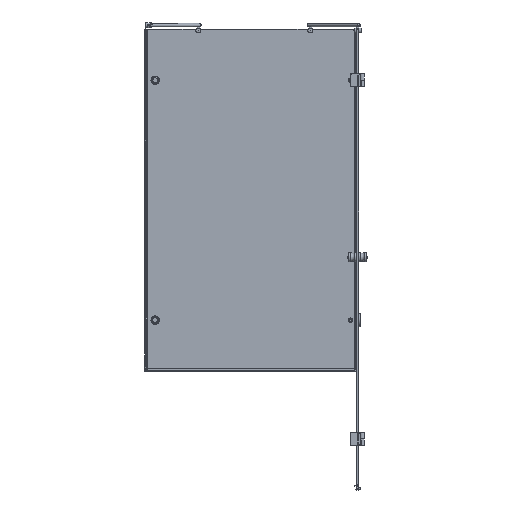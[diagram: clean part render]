
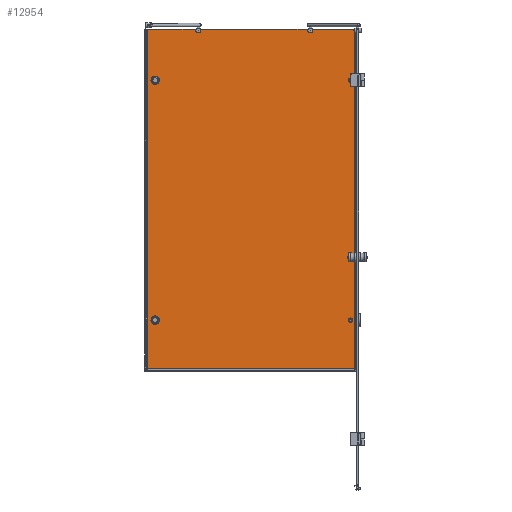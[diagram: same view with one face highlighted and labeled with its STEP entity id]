
A CAD part, left-side view. The second image highlights one B-rep face of the part: STEP entity #12954.
In plain terms, the highlighted planar face has unit normal (-1, 0, 0).
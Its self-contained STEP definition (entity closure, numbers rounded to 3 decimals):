
#153=LINE($,#18955,#1439);
#175=LINE($,#19277,#1461);
#176=LINE($,#19279,#1462);
#177=LINE($,#19281,#1463);
#178=LINE($,#19283,#1464);
#179=LINE($,#19285,#1465);
#180=LINE($,#19287,#1466);
#181=LINE($,#19289,#1467);
#182=LINE($,#19291,#1468);
#183=LINE($,#19293,#1469);
#184=LINE($,#19295,#1470);
#185=LINE($,#19297,#1471);
#186=LINE($,#19299,#1472);
#187=LINE($,#19301,#1473);
#188=LINE($,#19303,#1474);
#189=LINE($,#19304,#1475);
#1439=VECTOR($,#15026,444.574);
#1461=VECTOR($,#15108,198.474);
#1462=VECTOR($,#15109,1408.25);
#1463=VECTOR($,#15110,853.);
#1464=VECTOR($,#15111,0.5);
#1465=VECTOR($,#15112,853.);
#1466=VECTOR($,#15113,1.25);
#1467=VECTOR($,#15114,853.);
#1468=VECTOR($,#15115,5.);
#1469=VECTOR($,#15116,10.);
#1470=VECTOR($,#15117,1400.);
#1471=VECTOR($,#15118,2.443);
#1472=VECTOR($,#15119,1400.);
#1473=VECTOR($,#15120,2.257);
#1474=VECTOR($,#15121,1400.);
#1475=VECTOR($,#15122,174.531);
#2782=FACE_BOUND($,#3872,.T.);
#2783=FACE_BOUND($,#3873,.T.);
#2784=FACE_BOUND($,#3874,.T.);
#2785=FACE_BOUND($,#3875,.T.);
#3135=FACE_OUTER_BOUND($,#3871,.T.);
#3871=EDGE_LOOP($,(#8320,#8321,#8322,#8323,#8324,#8325,#8326,#8327,#8328,
#8329,#8330,#8331,#8332,#8333,#8334,#8335,#8336,#8337));
#3872=EDGE_LOOP($,(#8338));
#3873=EDGE_LOOP($,(#8339));
#3874=EDGE_LOOP($,(#8340));
#3875=EDGE_LOOP($,(#8341));
#4622=CIRCLE($,#13678,10.);
#4643=CIRCLE($,#13715,10.);
#4654=CIRCLE($,#13737,15.);
#4655=CIRCLE($,#13738,15.);
#4656=CIRCLE($,#13739,4.);
#4657=CIRCLE($,#13740,4.);
#5065=VERTEX_POINT($,#18693);
#5066=VERTEX_POINT($,#18694);
#5111=VERTEX_POINT($,#18954);
#5128=VERTEX_POINT($,#19063);
#5157=VERTEX_POINT($,#19276);
#5158=VERTEX_POINT($,#19278);
#5159=VERTEX_POINT($,#19280);
#5160=VERTEX_POINT($,#19282);
#5161=VERTEX_POINT($,#19284);
#5162=VERTEX_POINT($,#19286);
#5163=VERTEX_POINT($,#19288);
#5164=VERTEX_POINT($,#19290);
#5165=VERTEX_POINT($,#19292);
#5166=VERTEX_POINT($,#19294);
#5167=VERTEX_POINT($,#19296);
#5168=VERTEX_POINT($,#19298);
#5169=VERTEX_POINT($,#19300);
#5170=VERTEX_POINT($,#19302);
#5171=VERTEX_POINT($,#19305);
#5172=VERTEX_POINT($,#19307);
#5173=VERTEX_POINT($,#19309);
#5174=VERTEX_POINT($,#19311);
#6284=EDGE_CURVE($,#5065,#5066,#4622,.T.);
#6337=EDGE_CURVE($,#5111,#5065,#153,.T.);
#6355=EDGE_CURVE($,#5128,#5111,#4643,.T.);
#6388=EDGE_CURVE($,#5066,#5157,#175,.T.);
#6389=EDGE_CURVE($,#5157,#5158,#176,.T.);
#6390=EDGE_CURVE($,#5158,#5159,#177,.T.);
#6391=EDGE_CURVE($,#5159,#5160,#178,.T.);
#6392=EDGE_CURVE($,#5161,#5160,#179,.T.);
#6393=EDGE_CURVE($,#5161,#5162,#180,.T.);
#6394=EDGE_CURVE($,#5163,#5162,#181,.T.);
#6395=EDGE_CURVE($,#5164,#5163,#182,.T.);
#6396=EDGE_CURVE($,#5165,#5164,#183,.T.);
#6397=EDGE_CURVE($,#5166,#5165,#184,.T.);
#6398=EDGE_CURVE($,#5166,#5167,#185,.T.);
#6399=EDGE_CURVE($,#5167,#5168,#186,.T.);
#6400=EDGE_CURVE($,#5168,#5169,#187,.T.);
#6401=EDGE_CURVE($,#5169,#5170,#188,.T.);
#6402=EDGE_CURVE($,#5170,#5128,#189,.T.);
#6403=EDGE_CURVE($,#5171,#5171,#4654,.T.);
#6404=EDGE_CURVE($,#5172,#5172,#4655,.T.);
#6405=EDGE_CURVE($,#5173,#5173,#4656,.T.);
#6406=EDGE_CURVE($,#5174,#5174,#4657,.T.);
#8320=ORIENTED_EDGE($,*,*,#6284,.T.);
#8321=ORIENTED_EDGE($,*,*,#6388,.T.);
#8322=ORIENTED_EDGE($,*,*,#6389,.T.);
#8323=ORIENTED_EDGE($,*,*,#6390,.T.);
#8324=ORIENTED_EDGE($,*,*,#6391,.T.);
#8325=ORIENTED_EDGE($,*,*,#6392,.F.);
#8326=ORIENTED_EDGE($,*,*,#6393,.T.);
#8327=ORIENTED_EDGE($,*,*,#6394,.F.);
#8328=ORIENTED_EDGE($,*,*,#6395,.F.);
#8329=ORIENTED_EDGE($,*,*,#6396,.F.);
#8330=ORIENTED_EDGE($,*,*,#6397,.F.);
#8331=ORIENTED_EDGE($,*,*,#6398,.T.);
#8332=ORIENTED_EDGE($,*,*,#6399,.T.);
#8333=ORIENTED_EDGE($,*,*,#6400,.T.);
#8334=ORIENTED_EDGE($,*,*,#6401,.T.);
#8335=ORIENTED_EDGE($,*,*,#6402,.T.);
#8336=ORIENTED_EDGE($,*,*,#6355,.T.);
#8337=ORIENTED_EDGE($,*,*,#6337,.T.);
#8338=ORIENTED_EDGE($,*,*,#6403,.T.);
#8339=ORIENTED_EDGE($,*,*,#6404,.T.);
#8340=ORIENTED_EDGE($,*,*,#6405,.T.);
#8341=ORIENTED_EDGE($,*,*,#6406,.T.);
#11714=PLANE($,#13736);
#12954=ADVANCED_FACE($,(#3135,#2782,#2783,#2784,#2785),#11714,.T.);
#13678=AXIS2_PLACEMENT_3D($,#18695,#14938,#14939);
#13715=AXIS2_PLACEMENT_3D($,#19064,#15046,#15047);
#13736=AXIS2_PLACEMENT_3D($,#19275,#15106,#15107);
#13737=AXIS2_PLACEMENT_3D($,#19306,#15123,#15124);
#13738=AXIS2_PLACEMENT_3D($,#19308,#15125,#15126);
#13739=AXIS2_PLACEMENT_3D($,#19310,#15127,#15128);
#13740=AXIS2_PLACEMENT_3D($,#19312,#15129,#15130);
#14938=DIRECTION('center_axis',(1.,0.,0.));
#14939=DIRECTION('ref_axis',(0.,0.597,0.802));
#15026=DIRECTION($,(0.,1.,0.));
#15046=DIRECTION('center_axis',(1.,0.,0.));
#15047=DIRECTION('ref_axis',(0.,-1.,0.));
#15106=DIRECTION('center_axis',(-1.,0.,0.));
#15107=DIRECTION('ref_axis',(0.,1.,0.));
#15108=DIRECTION($,(0.,1.,0.));
#15109=DIRECTION($,(0.,0.,-1.));
#15110=DIRECTION($,(0.,-1.,0.));
#15111=DIRECTION($,(0.,0.,-1.));
#15112=DIRECTION($,(0.,-1.,0.));
#15113=DIRECTION($,(0.,0.,-1.));
#15114=DIRECTION($,(0.,1.,0.));
#15115=DIRECTION($,(0.,1.,0.));
#15116=DIRECTION($,(0.,0.,-1.));
#15117=DIRECTION($,(0.,0.,-1.));
#15118=DIRECTION($,(0.,1.,0.));
#15119=DIRECTION($,(0.,0.,-1.));
#15120=DIRECTION($,(0.,1.,0.));
#15121=DIRECTION($,(0.,0.,1.));
#15122=DIRECTION($,(0.,1.,0.));
#15123=DIRECTION('center_axis',(1.,0.,0.));
#15124=DIRECTION('ref_axis',(0.,-1.,0.));
#15125=DIRECTION('center_axis',(1.,0.,0.));
#15126=DIRECTION('ref_axis',(0.,-1.,0.));
#15127=DIRECTION('center_axis',(1.,0.,0.));
#15128=DIRECTION('ref_axis',(0.,1.,0.));
#15129=DIRECTION('center_axis',(1.,0.,0.));
#15130=DIRECTION('ref_axis',(0.,1.,0.));
#18693=CARTESIAN_POINT('',(1084.59,617.622,1385.944));
#18694=CARTESIAN_POINT('',(1084.59,635.482,1385.944));
#18695=CARTESIAN_POINT('Origin',(1084.59,626.552,1381.444));
#18954=CARTESIAN_POINT('',(1084.59,173.048,1385.944));
#18955=CARTESIAN_POINT($,(1084.59,-24.044,1385.944));
#19063=CARTESIAN_POINT('',(1084.59,155.187,1385.944));
#19064=CARTESIAN_POINT('Origin',(1084.59,164.117,1381.444));
#19275=CARTESIAN_POINT('Origin',(1084.59,-24.044,1385.944));
#19276=CARTESIAN_POINT('',(1084.59,833.956,1385.944));
#19277=CARTESIAN_POINT($,(1084.59,-24.044,1385.944));
#19278=CARTESIAN_POINT('',(1084.59,833.956,-22.306));
#19279=CARTESIAN_POINT($,(1084.59,833.956,680.944));
#19280=CARTESIAN_POINT('',(1084.59,-19.044,-22.306));
#19281=CARTESIAN_POINT($,(1084.59,838.956,-22.306));
#19282=CARTESIAN_POINT('',(1084.59,-19.044,-22.806));
#19283=CARTESIAN_POINT($,(1084.59,-19.044,681.691));
#19284=CARTESIAN_POINT('',(1084.59,833.956,-22.806));
#19285=CARTESIAN_POINT($,(1084.59,838.956,-22.806));
#19286=CARTESIAN_POINT('',(1084.59,833.956,-24.056));
#19287=CARTESIAN_POINT($,(1084.59,833.956,680.944));
#19288=CARTESIAN_POINT('',(1084.59,-19.044,-24.056));
#19289=CARTESIAN_POINT($,(1084.59,-24.044,-24.056));
#19290=CARTESIAN_POINT('',(1084.59,-24.044,-24.056));
#19291=CARTESIAN_POINT($,(1084.59,-24.044,-24.056));
#19292=CARTESIAN_POINT('',(1084.59,-24.044,-14.056));
#19293=CARTESIAN_POINT($,(1084.59,-24.044,1385.944));
#19294=CARTESIAN_POINT('',(1084.59,-24.044,1385.944));
#19295=CARTESIAN_POINT($,(1084.59,-24.044,1385.944));
#19296=CARTESIAN_POINT('',(1084.59,-21.601,1385.944));
#19297=CARTESIAN_POINT($,(1084.59,-24.044,1385.944));
#19298=CARTESIAN_POINT('',(1084.59,-21.601,-14.056));
#19299=CARTESIAN_POINT($,(1084.59,-21.601,1385.944));
#19300=CARTESIAN_POINT('',(1084.59,-19.344,-14.056));
#19301=CARTESIAN_POINT($,(1084.59,-23.441,-14.056));
#19302=CARTESIAN_POINT('',(1084.59,-19.344,1385.944));
#19303=CARTESIAN_POINT($,(1084.59,-19.344,1385.944));
#19304=CARTESIAN_POINT($,(1084.59,-24.044,1385.944));
#19305=CARTESIAN_POINT('',(1084.59,818.956,185.944));
#19306=CARTESIAN_POINT('Origin',(1084.59,803.956,185.944));
#19307=CARTESIAN_POINT('',(1084.59,818.956,1175.944));
#19308=CARTESIAN_POINT('Origin',(1084.59,803.956,1175.944));
#19309=CARTESIAN_POINT('',(1084.59,-6.044,1175.944));
#19310=CARTESIAN_POINT('Origin',(1084.59,-2.044,1175.944));
#19311=CARTESIAN_POINT('',(1084.59,-6.044,185.944));
#19312=CARTESIAN_POINT('Origin',(1084.59,-2.044,185.944));
